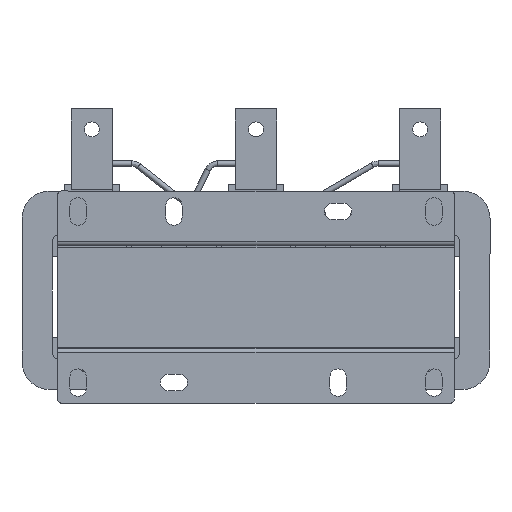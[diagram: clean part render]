
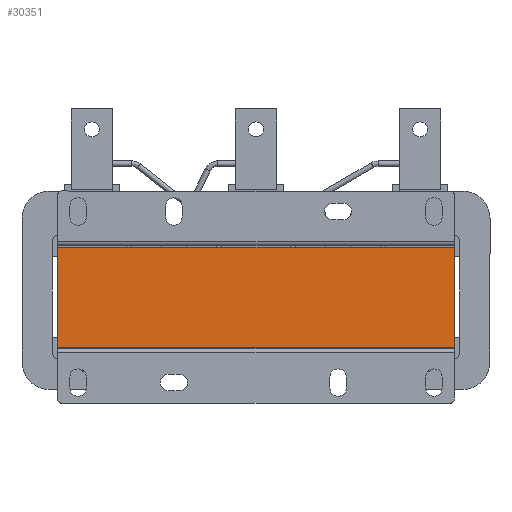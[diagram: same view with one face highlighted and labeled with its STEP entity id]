
A CAD part, front view. The second image highlights one B-rep face of the part: STEP entity #30351.
In plain terms, the highlighted planar face has unit normal (0, -1, 0).
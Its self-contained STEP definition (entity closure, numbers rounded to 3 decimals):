
#946 = AXIS2_PLACEMENT_3D ( 'NONE', #27248, #33498, #36736 ) ;
#2604 = ORIENTED_EDGE ( 'NONE', *, *, #37205, .F. ) ;
#2819 = DIRECTION ( 'NONE',  ( -1., 0., 0. ) ) ;
#3537 = ORIENTED_EDGE ( 'NONE', *, *, #20073, .F. ) ;
#3821 = LINE ( 'NONE', #15377, #31996 ) ;
#8863 = CARTESIAN_POINT ( 'NONE',  ( -145., -140., 73. ) ) ;
#15377 = CARTESIAN_POINT ( 'NONE',  ( 0., -140., 73. ) ) ;
#16035 = PLANE ( 'NONE',  #946 ) ;
#16412 = EDGE_LOOP ( 'NONE', ( #2604, #3537, #27949, #17834 ) ) ;
#17176 = LINE ( 'NONE', #8863, #35125 ) ;
#17191 = LINE ( 'NONE', #28785, #24548 ) ;
#17627 = CARTESIAN_POINT ( 'NONE',  ( 145., -140., 0. ) ) ;
#17834 = ORIENTED_EDGE ( 'NONE', *, *, #29997, .F. ) ;
#18563 = DIRECTION ( 'NONE',  ( 1., 0., 0. ) ) ;
#20073 = EDGE_CURVE ( 'NONE', #28860, #36360, #3821, .T. ) ;
#20450 = CARTESIAN_POINT ( 'NONE',  ( 145., -140., 73. ) ) ;
#23230 = VERTEX_POINT ( 'NONE', #17627 ) ;
#24548 = VECTOR ( 'NONE', #2819, 1000. ) ;
#25153 = VERTEX_POINT ( 'NONE', #29937 ) ;
#25438 = EDGE_CURVE ( 'NONE', #25153, #28860, #17176, .T. ) ;
#26390 = CARTESIAN_POINT ( 'NONE',  ( -145., -140., 73. ) ) ;
#27248 = CARTESIAN_POINT ( 'NONE',  ( -145., -140., 73. ) ) ;
#27791 = DIRECTION ( 'NONE',  ( 0., 0., 1. ) ) ;
#27949 = ORIENTED_EDGE ( 'NONE', *, *, #25438, .F. ) ;
#28785 = CARTESIAN_POINT ( 'NONE',  ( -145., -140., 0. ) ) ;
#28860 = VERTEX_POINT ( 'NONE', #26390 ) ;
#29168 = VECTOR ( 'NONE', #31336, 1000. ) ;
#29937 = CARTESIAN_POINT ( 'NONE',  ( -145., -140., 0. ) ) ;
#29997 = EDGE_CURVE ( 'NONE', #23230, #25153, #17191, .T. ) ;
#30351 = ADVANCED_FACE ( 'NONE', ( #36179 ), #16035, .F. ) ;
#31336 = DIRECTION ( 'NONE',  ( 0., 0., -1. ) ) ;
#31996 = VECTOR ( 'NONE', #18563, 1000. ) ;
#33498 = DIRECTION ( 'NONE',  ( 0., 1., 0. ) ) ;
#33621 = LINE ( 'NONE', #20450, #29168 ) ;
#34811 = CARTESIAN_POINT ( 'NONE',  ( 145., -140., 73. ) ) ;
#35125 = VECTOR ( 'NONE', #27791, 1000. ) ;
#36179 = FACE_OUTER_BOUND ( 'NONE', #16412, .T. ) ;
#36360 = VERTEX_POINT ( 'NONE', #34811 ) ;
#36736 = DIRECTION ( 'NONE',  ( -1., 0., 0. ) ) ;
#37205 = EDGE_CURVE ( 'NONE', #36360, #23230, #33621, .T. ) ;
